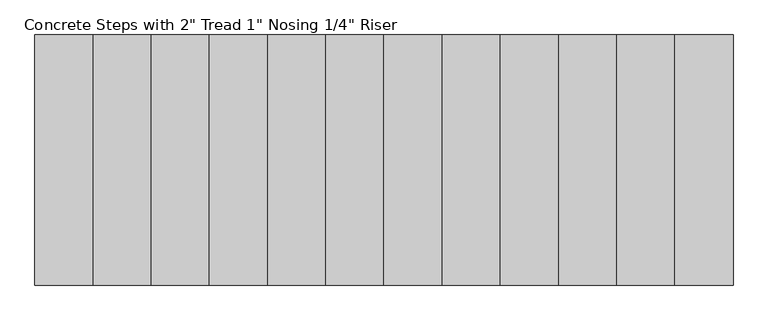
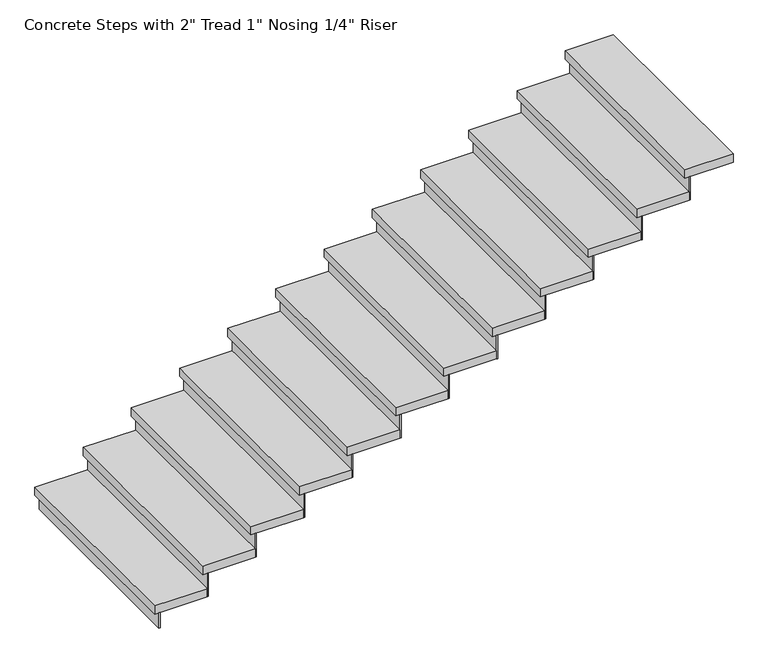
"""IFC4 building model written with IfcOpenShell, lengths in millimetres: stair flight geometry."""

from ifc_helpers import new_model, si_unit, frame, origin, origin_with_axes, place, context, project, spatial, polyline, outline, extrude, source, transform, mapped, element, save


def stair_flight_899ccd9d(model_context):
    return source(origin(), model_context, "Body", "SweptSolid", [
        extrude(outline(polyline([(-18973.5313244, -3862.1362112), (-18979.8813244, -3862.1362112), (-18979.8813244, -2661.1276112), (-18973.5313244, -2661.1276112), (-18973.5313244, -3862.1362112)])), origin_with_axes(), (0.0, 0.0, 1.0), 94.3428571),
        extrude(outline(polyline([(-18700.4813244, -2661.1276112), (-18700.4813244, -3862.1362112), (-19005.2813244, -3862.1362112), (-19005.2813244, -2661.1276112), (-18700.4813244, -2661.1276112)])), frame((0.0, 0.0, 94.3428571), z_axis=(0.0, 0.0, 1.0), x_axis=(1.0, 0.0, 0.0)), (0.0, 0.0, 1.0), 50.8),
        extrude(outline(polyline([(-18694.1313244, -3862.1362112), (-18700.4813244, -3862.1362112), (-18700.4813244, -2661.1276112), (-18694.1313244, -2661.1276112), (-18694.1313244, -3862.1362112)])), frame((0.0, 0.0, 94.3428571), z_axis=(0.0, 0.0, 1.0), x_axis=(1.0, 0.0, 0.0)), (0.0, 0.0, 1.0), 145.1428571),
        extrude(outline(polyline([(-18421.0813244, -2661.1276112), (-18421.0813244, -3862.1362112), (-18725.8813244, -3862.1362112), (-18725.8813244, -2661.1276112), (-18421.0813244, -2661.1276112)])), frame((0.0, 0.0, 239.4857143), z_axis=(0.0, 0.0, 1.0), x_axis=(1.0, 0.0, 0.0)), (0.0, 0.0, 1.0), 50.8),
        extrude(outline(polyline([(-18414.7313244, -3862.1362112), (-18421.0813244, -3862.1362112), (-18421.0813244, -2661.1276112), (-18414.7313244, -2661.1276112), (-18414.7313244, -3862.1362112)])), frame((0.0, 0.0, 239.4857143), z_axis=(0.0, 0.0, 1.0), x_axis=(1.0, 0.0, 0.0)), (0.0, 0.0, 1.0), 145.1428571),
        extrude(outline(polyline([(-18141.6813244, -2661.1276112), (-18141.6813244, -3862.1362112), (-18446.4813244, -3862.1362112), (-18446.4813244, -2661.1276112), (-18141.6813244, -2661.1276112)])), frame((0.0, 0.0, 384.6285714), z_axis=(0.0, 0.0, 1.0), x_axis=(1.0, 0.0, 0.0)), (0.0, 0.0, 1.0), 50.8),
        extrude(outline(polyline([(-18135.3313244, -3862.1362112), (-18141.6813244, -3862.1362112), (-18141.6813244, -2661.1276112), (-18135.3313244, -2661.1276112), (-18135.3313244, -3862.1362112)])), frame((0.0, 0.0, 384.6285714), z_axis=(0.0, 0.0, 1.0), x_axis=(1.0, 0.0, 0.0)), (0.0, 0.0, 1.0), 145.1428571),
        extrude(outline(polyline([(-17862.2813244, -2661.1276112), (-17862.2813244, -3862.1362112), (-18167.0813244, -3862.1362112), (-18167.0813244, -2661.1276112), (-17862.2813244, -2661.1276112)])), frame((0.0, 0.0, 529.7714286), z_axis=(0.0, 0.0, 1.0), x_axis=(1.0, 0.0, 0.0)), (0.0, 0.0, 1.0), 50.8),
        extrude(outline(polyline([(-17855.9313244, -3862.1362112), (-17862.2813244, -3862.1362112), (-17862.2813244, -2661.1276112), (-17855.9313244, -2661.1276112), (-17855.9313244, -3862.1362112)])), frame((0.0, 0.0, 529.7714286), z_axis=(0.0, 0.0, 1.0), x_axis=(1.0, 0.0, 0.0)), (0.0, 0.0, 1.0), 145.1428571),
        extrude(outline(polyline([(-17582.8813244, -2661.1276112), (-17582.8813244, -3862.1362112), (-17887.6813244, -3862.1362112), (-17887.6813244, -2661.1276112), (-17582.8813244, -2661.1276112)])), frame((0.0, 0.0, 674.9142857), z_axis=(0.0, 0.0, 1.0), x_axis=(1.0, 0.0, 0.0)), (0.0, 0.0, 1.0), 50.8),
        extrude(outline(polyline([(-17576.5313244, -3862.1362112), (-17582.8813244, -3862.1362112), (-17582.8813244, -2661.1276112), (-17576.5313244, -2661.1276112), (-17576.5313244, -3862.1362112)])), frame((0.0, 0.0, 674.9142857), z_axis=(0.0, 0.0, 1.0), x_axis=(1.0, 0.0, 0.0)), (0.0, 0.0, 1.0), 145.1428571),
        extrude(outline(polyline([(-17303.4813244, -2661.1276112), (-17303.4813244, -3862.1362112), (-17608.2813244, -3862.1362112), (-17608.2813244, -2661.1276112), (-17303.4813244, -2661.1276112)])), frame((0.0, 0.0, 820.0571429), z_axis=(0.0, 0.0, 1.0), x_axis=(1.0, 0.0, 0.0)), (0.0, 0.0, 1.0), 50.8),
        extrude(outline(polyline([(-17297.1313244, -3862.1362112), (-17303.4813244, -3862.1362112), (-17303.4813244, -2661.1276112), (-17297.1313244, -2661.1276112), (-17297.1313244, -3862.1362112)])), frame((0.0, 0.0, 820.0571429), z_axis=(0.0, 0.0, 1.0), x_axis=(1.0, 0.0, 0.0)), (0.0, 0.0, 1.0), 145.1428571),
        extrude(outline(polyline([(-17024.0813244, -2661.1276112), (-17024.0813244, -3862.1362112), (-17328.8813244, -3862.1362112), (-17328.8813244, -2661.1276112), (-17024.0813244, -2661.1276112)])), frame((0.0, 0.0, 965.2), z_axis=(0.0, 0.0, 1.0), x_axis=(1.0, 0.0, 0.0)), (0.0, 0.0, 1.0), 50.8),
        extrude(outline(polyline([(-17017.7313244, -3862.1362112), (-17024.0813244, -3862.1362112), (-17024.0813244, -2661.1276112), (-17017.7313244, -2661.1276112), (-17017.7313244, -3862.1362112)])), frame((0.0, 0.0, 965.2), z_axis=(0.0, 0.0, 1.0), x_axis=(1.0, 0.0, 0.0)), (0.0, 0.0, 1.0), 145.1428571),
        extrude(outline(polyline([(-16744.6813244, -2661.1276112), (-16744.6813244, -3862.1362112), (-17049.4813244, -3862.1362112), (-17049.4813244, -2661.1276112), (-16744.6813244, -2661.1276112)])), frame((0.0, 0.0, 1110.3428571), z_axis=(0.0, 0.0, 1.0), x_axis=(1.0, 0.0, 0.0)), (0.0, 0.0, 1.0), 50.8),
        extrude(outline(polyline([(-16738.3313244, -3862.1362112), (-16744.6813244, -3862.1362112), (-16744.6813244, -2661.1276112), (-16738.3313244, -2661.1276112), (-16738.3313244, -3862.1362112)])), frame((0.0, 0.0, 1110.3428571), z_axis=(0.0, 0.0, 1.0), x_axis=(1.0, 0.0, 0.0)), (0.0, 0.0, 1.0), 145.1428571),
        extrude(outline(polyline([(-16465.2813244, -2661.1276112), (-16465.2813244, -3862.1362112), (-16770.0813244, -3862.1362112), (-16770.0813244, -2661.1276112), (-16465.2813244, -2661.1276112)])), frame((0.0, 0.0, 1255.4857143), z_axis=(0.0, 0.0, 1.0), x_axis=(1.0, 0.0, 0.0)), (0.0, 0.0, 1.0), 50.8),
        extrude(outline(polyline([(-16458.9313244, -3862.1362112), (-16465.2813244, -3862.1362112), (-16465.2813244, -2661.1276112), (-16458.9313244, -2661.1276112), (-16458.9313244, -3862.1362112)])), frame((0.0, 0.0, 1255.4857143), z_axis=(0.0, 0.0, 1.0), x_axis=(1.0, 0.0, 0.0)), (0.0, 0.0, 1.0), 145.1428571),
        extrude(outline(polyline([(-16185.8813244, -2661.1276112), (-16185.8813244, -3862.1362112), (-16490.6813244, -3862.1362112), (-16490.6813244, -2661.1276112), (-16185.8813244, -2661.1276112)])), frame((0.0, 0.0, 1400.6285714), z_axis=(0.0, 0.0, 1.0), x_axis=(1.0, 0.0, 0.0)), (0.0, 0.0, 1.0), 50.8),
        extrude(outline(polyline([(-16179.5313244, -3862.1362112), (-16185.8813244, -3862.1362112), (-16185.8813244, -2661.1276112), (-16179.5313244, -2661.1276112), (-16179.5313244, -3862.1362112)])), frame((0.0, 0.0, 1400.6285714), z_axis=(0.0, 0.0, 1.0), x_axis=(1.0, 0.0, 0.0)), (0.0, 0.0, 1.0), 145.1428571),
        extrude(outline(polyline([(-15906.4813244, -2661.1276112), (-15906.4813244, -3862.1362112), (-16211.2813244, -3862.1362112), (-16211.2813244, -2661.1276112), (-15906.4813244, -2661.1276112)])), frame((0.0, 0.0, 1545.7714286), z_axis=(0.0, 0.0, 1.0), x_axis=(1.0, 0.0, 0.0)), (0.0, 0.0, 1.0), 50.8),
        extrude(outline(polyline([(-15900.1313244, -3862.1362112), (-15906.4813244, -3862.1362112), (-15906.4813244, -2661.1276112), (-15900.1313244, -2661.1276112), (-15900.1313244, -3862.1362112)])), frame((0.0, 0.0, 1545.7714286), z_axis=(0.0, 0.0, 1.0), x_axis=(1.0, 0.0, 0.0)), (0.0, 0.0, 1.0), 145.1428571),
        extrude(outline(polyline([(-15652.4813244, -2661.1276112), (-15652.4813244, -3862.1362112), (-15931.8813244, -3862.1362112), (-15931.8813244, -2661.1276112), (-15652.4813244, -2661.1276112)])), frame((0.0, 0.0, 1690.9142857), z_axis=(0.0, 0.0, 1.0), x_axis=(1.0, 0.0, 0.0)), (0.0, 0.0, 1.0), 50.8),
    ])


if __name__ == "__main__":
    model = new_model("IFC4")
    model_context = context("Model", 3, world=origin())
    ifc_project = project(units=[si_unit("LENGTHUNIT", "METRE", prefix="MILLI")], contexts=[model_context])
    site = spatial("IfcSite", under=ifc_project)
    building = spatial("IfcBuilding", under=site)
    placement = place(None, origin())
    stair_flight_shape = stair_flight_899ccd9d(model_context)
    element("IfcStairFlight", 1, ObjectType="Concrete Steps with 2\" Tread 1\" Nosing 1/4\" Riser", at=placement, inside=building, context=model_context, shape_type="MappedRepresentation", body=[
        mapped(stair_flight_shape, transform((0.0, 0.0, 0.0), x_axis=(1.0, 0.0, 0.0), y_axis=(0.0, 1.0, 0.0), z_axis=(0.0, 0.0, 1.0))),
    ])
    save(model, "model.ifc")
